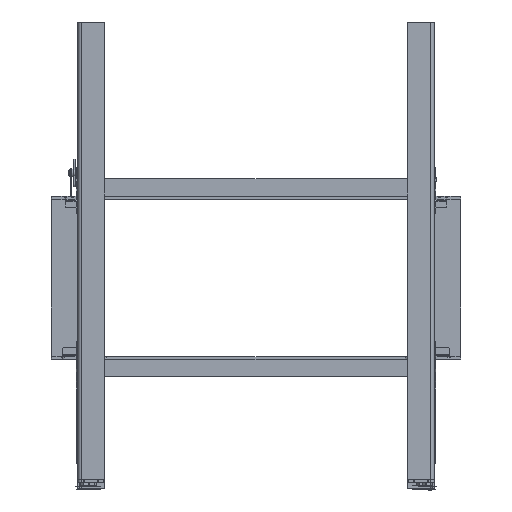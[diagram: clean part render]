
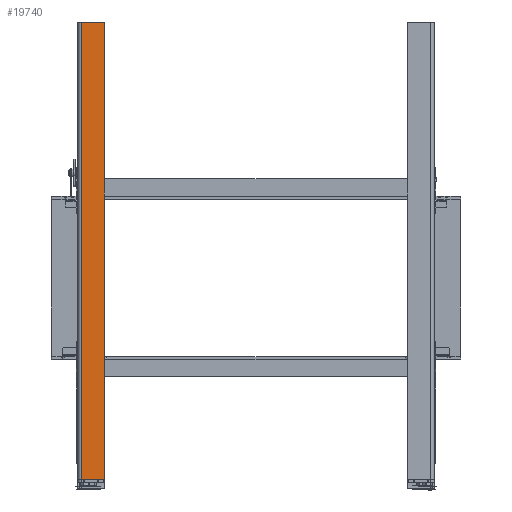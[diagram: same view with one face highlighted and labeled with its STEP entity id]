
A CAD part, front view. The second image highlights one B-rep face of the part: STEP entity #19740.
In plain terms, the highlighted planar face has unit normal (0, -1, 0).
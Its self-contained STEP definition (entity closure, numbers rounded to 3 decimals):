
#1693=LINE('',#28745,#3454);
#1794=LINE('',#29097,#3555);
#1809=LINE('',#29139,#3570);
#1811=LINE('',#29145,#3572);
#1812=LINE('',#29149,#3573);
#1813=LINE('',#29150,#3574);
#3454=VECTOR('',#22881,10.);
#3555=VECTOR('',#23214,10.);
#3570=VECTOR('',#23257,10.);
#3572=VECTOR('',#23267,10.);
#3573=VECTOR('',#23274,10.);
#3574=VECTOR('',#23275,10.);
#5312=FACE_OUTER_BOUND('',#6358,.T.);
#6358=EDGE_LOOP('',(#13636,#13637,#13638,#13639,#13640,#13641,#13642,#13643));
#7473=CIRCLE('',#20881,2.);
#7475=CIRCLE('',#20886,2.);
#8423=VERTEX_POINT('',#28731);
#8429=VERTEX_POINT('',#28743);
#8562=VERTEX_POINT('',#29090);
#8563=VERTEX_POINT('',#29092);
#8564=VERTEX_POINT('',#29096);
#8569=VERTEX_POINT('',#29110);
#8576=VERTEX_POINT('',#29136);
#8577=VERTEX_POINT('',#29138);
#10335=EDGE_CURVE('',#8429,#8423,#1693,.T.);
#10510=EDGE_CURVE('',#8563,#8562,#7473,.T.);
#10512=EDGE_CURVE('',#8564,#8563,#1794,.T.);
#10519=EDGE_CURVE('',#8569,#8564,#7475,.T.);
#10534=EDGE_CURVE('',#8577,#8576,#1809,.T.);
#10538=EDGE_CURVE('',#8562,#8577,#1811,.T.);
#10540=EDGE_CURVE('',#8423,#8576,#1812,.T.);
#10541=EDGE_CURVE('',#8569,#8429,#1813,.T.);
#13636=ORIENTED_EDGE('',*,*,#10510,.T.);
#13637=ORIENTED_EDGE('',*,*,#10538,.T.);
#13638=ORIENTED_EDGE('',*,*,#10534,.T.);
#13639=ORIENTED_EDGE('',*,*,#10540,.F.);
#13640=ORIENTED_EDGE('',*,*,#10335,.F.);
#13641=ORIENTED_EDGE('',*,*,#10541,.F.);
#13642=ORIENTED_EDGE('',*,*,#10519,.T.);
#13643=ORIENTED_EDGE('',*,*,#10512,.T.);
#19157=PLANE('',#20903);
#19740=ADVANCED_FACE('',(#5312),#19157,.T.);
#20881=AXIS2_PLACEMENT_3D('',#29093,#23209,#23210);
#20886=AXIS2_PLACEMENT_3D('',#29111,#23226,#23227);
#20903=AXIS2_PLACEMENT_3D('',#29148,#23272,#23273);
#22881=DIRECTION('',(-1.,0.,0.));
#23209=DIRECTION('center_axis',(0.,-1.,0.));
#23210=DIRECTION('ref_axis',(0.707,0.,0.707));
#23214=DIRECTION('',(0.,0.,1.));
#23226=DIRECTION('center_axis',(0.,-1.,0.));
#23227=DIRECTION('ref_axis',(0.707,0.,-0.707));
#23257=DIRECTION('',(0.,0.,-1.));
#23267=DIRECTION('',(-1.,0.,0.));
#23272=DIRECTION('center_axis',(0.,-1.,0.));
#23273=DIRECTION('ref_axis',(0.,0.,
-1.));
#23274=DIRECTION('',(-1.,0.,0.));
#23275=DIRECTION('',(-1.,0.,0.));
#28731=CARTESIAN_POINT('',(-494.5,-725.5,-804.));
#28743=CARTESIAN_POINT('',(-452.5,-725.5,-804.));
#28745=CARTESIAN_POINT('',(-435.5,-725.5,-804.));
#29090=CARTESIAN_POINT('',(-437.5,-725.5,508.5));
#29092=CARTESIAN_POINT('',(-435.5,-725.5,506.5));
#29093=CARTESIAN_POINT('Origin',(-437.5,-725.5,506.5));
#29096=CARTESIAN_POINT('',(-435.5,-725.5,-802.));
#29097=CARTESIAN_POINT('',(-435.5,-725.5,-804.));
#29110=CARTESIAN_POINT('',(-437.5,-725.5,-804.));
#29111=CARTESIAN_POINT('Origin',(-437.5,-725.5,-802.));
#29136=CARTESIAN_POINT('',(-501.25,-725.5,-804.));
#29138=CARTESIAN_POINT('',(-501.25,-725.5,508.5));
#29139=CARTESIAN_POINT('',(-501.25,-725.5,-147.75));
#29145=CARTESIAN_POINT('',(-435.5,-725.5,508.5));
#29148=CARTESIAN_POINT('Origin',(-506.591,-725.5,-147.75));
#29149=CARTESIAN_POINT('',(-435.5,-725.5,-804.));
#29150=CARTESIAN_POINT('',(-435.5,-725.5,-804.));
